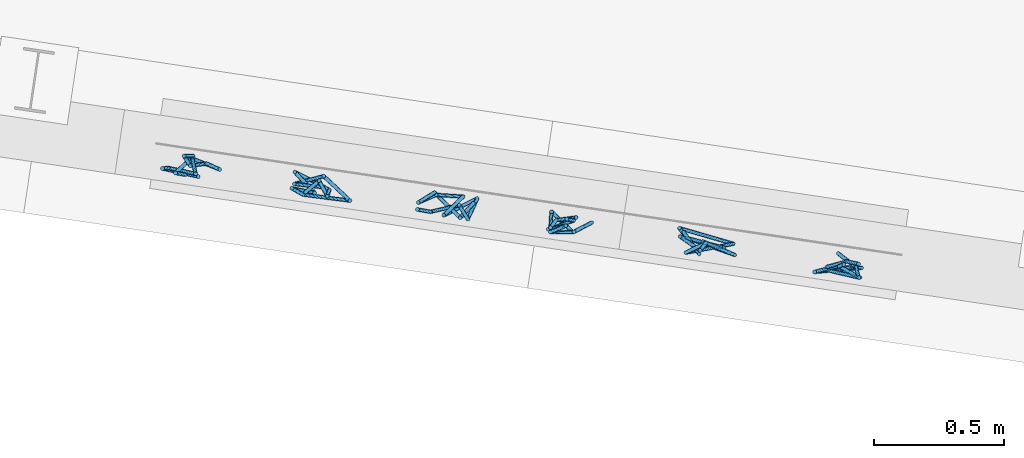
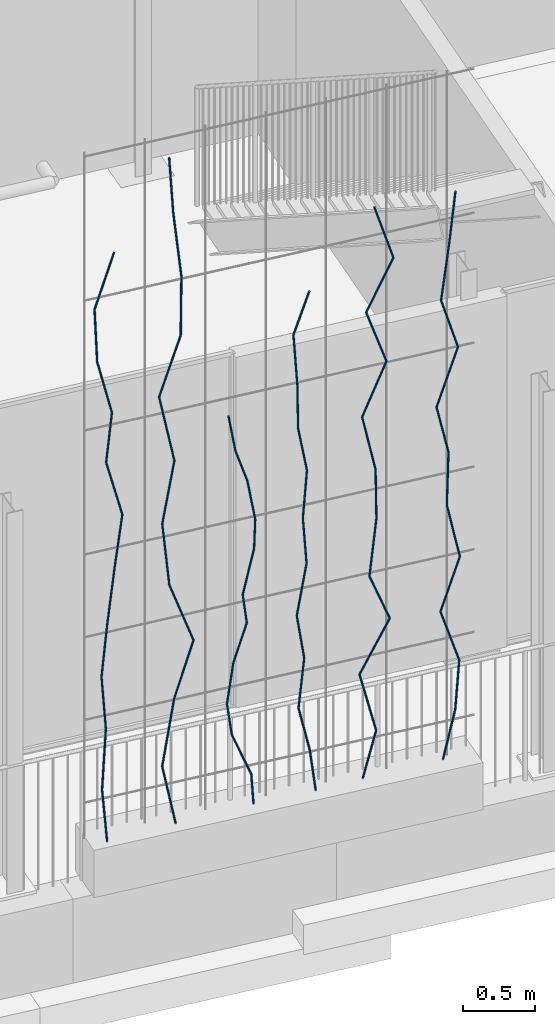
# One storey, part 118 of 142: 66 members, 1 element without a shape of its own.
"""IFC4 building model written with IfcOpenShell, lengths in metres."""

from ifc_helpers import new_model, si_unit, direction, frame, origin_with_axes, place, context, subcontext, project, spatial, circle, extrude, material, material_profile, profile_set, profile_usage, type_object, element, aggregate, save


model = new_model("IFC4")

# Units and contexts
model_context = context("Model", 3, precision=1e-05, world=origin_with_axes(), true_north=direction((0.0, 1.0)))
body_context = subcontext(model_context, "Body", "Model", "MODEL_VIEW")
ifc_project = project(units=[si_unit("VOLUMEUNIT", "CUBIC_METRE"), si_unit("LENGTHUNIT", "METRE"), si_unit("AREAUNIT", "SQUARE_METRE")], contexts=[model_context])

# Site, building, storey
site_placement = place(None, origin_with_axes())
site = spatial("IfcSite", under=ifc_project, at=site_placement, Name="Lares · Rua das Mercês · artigo 4771")
building_placement = place(site_placement, frame((12.0, 10.2, 13.9), z_axis=(0.0, 0.0, 1.0), x_axis=(0.989015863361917, -0.147809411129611, 0.0)))
building = spatial("IfcBuilding", under=site, at=building_placement, Name="Casa Sobreposta")
storey_placement = place(building_placement, origin_with_axes())
storey = spatial("IfcBuildingStorey", under=building, at=storey_placement, Name="00 · Habitação e estacionamento", Elevation=13.9)

# Assembly, members
assembly_placement = place(storey_placement, origin_with_axes())
assembly = element("IfcElementAssembly", 1, at=assembly_placement, inside=storey, Name="Fachada sul e pátio · estrutura e trepadeiras", ObjectType="LIVING_SHADE_TRELLIS", PredefinedType="USERDEFINED")
ifc_material = material(Name="Ramos de trepadeiras", Category="wood")
ifc_material_profile = material_profile(ifc_material, circle(Radius=0.0075))
ifc_profile_set = profile_set([ifc_material_profile], Name="D0.015")
ifc_profile_usage_1 = profile_usage(ifc_profile_set)
member_type = type_object("IfcMemberType", Name="D0.015 / vine_wood", PredefinedType="NOTDEFINED", material=ifc_profile_set)
member_1_placement = place(assembly_placement, frame((20.6273763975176, -1.71270765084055, 0.35), z_axis=(-0.0835871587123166, 0.00224471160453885, 0.996497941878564), x_axis=(0.0268450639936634, 0.999639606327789, 0.0)))
member_1 = element("IfcMember", 2, at=member_1_placement, type_object=member_type, material=ifc_profile_usage_1, Name="Trepadeiras · ramo", context=body_context, shape_type="SweptSolid", body=[
    extrude(circle(Radius=0.0075), origin_with_axes(), (0.0, 0.0, 1.0), 0.454249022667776),
])
ifc_profile_usage_2 = profile_usage(ifc_profile_set)
member_2_placement = place(assembly_placement, frame((20.5894070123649, -1.71168799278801, 0.802658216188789), z_axis=(0.124814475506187, 0.161144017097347, 0.979006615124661), x_axis=(0.790586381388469, -0.61235053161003, 0.0)))
member_2 = element("IfcMember", 3, at=member_2_placement, type_object=member_type, material=ifc_profile_usage_2, Name="Trepadeiras · ramo", context=body_context, shape_type="SweptSolid", body=[
    extrude(circle(Radius=0.0075), origin_with_axes(), (0.0, 0.0, 1.0), 0.462364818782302),
])
ifc_profile_usage_3 = profile_usage(ifc_profile_set)
member_3_placement = place(assembly_placement, frame((20.6471168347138, -1.63718066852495, 1.25531643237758), z_axis=(-0.0761302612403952, -0.0115954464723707, 0.997030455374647), x_axis=(-0.150574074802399, 0.988598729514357, 0.0)))
member_3 = element("IfcMember", 4, at=member_3_placement, type_object=member_type, material=ifc_profile_usage_3, Name="Trepadeiras · ramo", context=body_context, shape_type="SweptSolid", body=[
    extrude(circle(Radius=0.0075), origin_with_axes(), (0.0, 0.0, 1.0), 0.454006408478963),
])
ifc_profile_usage_4 = profile_usage(ifc_profile_set)
member_4_placement = place(assembly_placement, frame((20.6125532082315, -1.64244507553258, 1.70797464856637), z_axis=(0.0638104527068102, -0.07208499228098, 0.995355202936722), x_axis=(-0.748775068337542, -0.662824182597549, 0.0)))
member_4 = element("IfcMember", 5, at=member_4_placement, type_object=member_type, material=ifc_profile_usage_4, Name="Trepadeiras · ramo", context=body_context, shape_type="SweptSolid", body=[
    extrude(circle(Radius=0.0075), origin_with_axes(), (0.0, 0.0, 1.0), 0.454770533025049),
])
ifc_profile_usage_5 = profile_usage(ifc_profile_set)
member_5_placement = place(assembly_placement, frame((20.6415723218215, -1.67522720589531, 2.16063286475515), z_axis=(0.134562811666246, 0.0371278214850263, 0.990209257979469), x_axis=(0.265975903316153, -0.963979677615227, 0.0)))
member_5 = element("IfcMember", 6, at=member_5_placement, type_object=member_type, material=ifc_profile_usage_5, Name="Trepadeiras · ramo", context=body_context, shape_type="SweptSolid", body=[
    extrude(circle(Radius=0.0075), origin_with_axes(), (0.0, 0.0, 1.0), 0.457133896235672),
])
ifc_profile_usage_6 = profile_usage(ifc_profile_set)
member_6_placement = place(assembly_placement, frame((20.7030855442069, -1.65825482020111, 2.61329108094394), z_axis=(0.115686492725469, -0.0326950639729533, 0.99274753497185), x_axis=(-0.271965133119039, -0.962307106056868, -3.58129519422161e-18)))
member_6 = element("IfcMember", 7, at=member_6_placement, type_object=member_type, material=ifc_profile_usage_6, Name="Trepadeiras · ramo", context=body_context, shape_type="SweptSolid", body=[
    extrude(circle(Radius=0.0075), origin_with_axes(), (0.0, 0.0, 1.0), 0.455965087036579),
])
ifc_profile_usage_7 = profile_usage(ifc_profile_set)
member_7_placement = place(assembly_placement, frame((20.7558345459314, -1.67316262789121, 3.06594929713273), z_axis=(-0.237226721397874, 0.0552053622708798, 0.969884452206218), x_axis=(0.226655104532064, 0.973975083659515, 0.0)))
member_7 = element("IfcMember", 8, at=member_7_placement, type_object=member_type, material=ifc_profile_usage_7, Name="Trepadeiras · ramo", context=body_context, shape_type="SweptSolid", body=[
    extrude(circle(Radius=0.0075), origin_with_axes(), (0.0, 0.0, 1.0), 0.466713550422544),
])
ifc_profile_usage_8 = profile_usage(ifc_profile_set)
member_8_placement = place(assembly_placement, frame((20.6451176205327, -1.6473975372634, 3.51860751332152), z_axis=(0.0464804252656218, -0.122384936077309, 0.991393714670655), x_axis=(-0.934849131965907, -0.35504520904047, 0.0)))
member_8 = element("IfcMember", 9, at=member_8_placement, type_object=member_type, material=ifc_profile_usage_8, Name="Trepadeiras · ramo", context=body_context, shape_type="SweptSolid", body=[
    extrude(circle(Radius=0.0075), origin_with_axes(), (0.0, 0.0, 1.0), 0.456587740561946),
])
ifc_profile_usage_9 = profile_usage(ifc_profile_set)
member_9_placement = place(assembly_placement, frame((20.6663400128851, -1.70327699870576, 3.97126572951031), z_axis=(-0.230614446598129, 0.0148450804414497, 0.972931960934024), x_axis=(0.0642389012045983, 0.997934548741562, 0.0)))
member_9 = element("IfcMember", 10, at=member_9_placement, type_object=member_type, material=ifc_profile_usage_9, Name="Trepadeiras · ramo", context=body_context, shape_type="SweptSolid", body=[
    extrude(circle(Radius=0.0075), origin_with_axes(), (0.0, 0.0, 1.0), 0.465251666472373),
])
ifc_profile_usage_10 = profile_usage(ifc_profile_set)
member_10_placement = place(assembly_placement, frame((20.5590462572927, -1.69637030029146, 4.4239239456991), z_axis=(-0.0477503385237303, -0.0120278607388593, 0.998786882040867), x_axis=(-0.244260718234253, 0.969709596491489, 0.0)))
member_10 = element("IfcMember", 11, at=member_10_placement, type_object=member_type, material=ifc_profile_usage_10, Name="Trepadeiras · ramo", context=body_context, shape_type="SweptSolid", body=[
    extrude(circle(Radius=0.0075), origin_with_axes(), (0.0, 0.0, 1.0), 0.453208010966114),
])
ifc_profile_usage_11 = profile_usage(ifc_profile_set)
member_11_placement = place(assembly_placement, frame((20.5374054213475, -1.70182142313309, 4.87658216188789), z_axis=(0.297139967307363, -0.0221915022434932, 0.95457601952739), x_axis=(-0.0744762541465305, -0.997222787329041, 0.0)))
member_11 = element("IfcMember", 12, at=member_11_placement, type_object=member_type, material=ifc_profile_usage_11, Name="Trepadeiras · ramo", context=body_context, shape_type="SweptSolid", body=[
    extrude(circle(Radius=0.0075), origin_with_axes(), (0.0, 0.0, 1.0), 0.474198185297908),
])
ifc_profile_usage_12 = profile_usage(ifc_profile_set)
member_12_placement = place(assembly_placement, frame((21.1508159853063, -1.68230697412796, 0.35), z_axis=(-0.195931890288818, -0.00688597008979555, 0.980593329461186), x_axis=(-0.0351230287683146, 0.99938299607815, 0.0)))
member_12 = element("IfcMember", 13, at=member_12_placement, type_object=member_type, material=ifc_profile_usage_12, Name="Trepadeiras · ramo", context=body_context, shape_type="SweptSolid", body=[
    extrude(circle(Radius=0.0075), origin_with_axes(), (0.0, 0.0, 1.0), 0.526725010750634),
])
ifc_profile_usage_13 = profile_usage(ifc_profile_set)
member_13_placement = place(assembly_placement, frame((21.0476137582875, -1.68593398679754, 0.866503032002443), z_axis=(0.203482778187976, 0.0879343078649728, 0.97512169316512), x_axis=(0.396689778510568, -0.917952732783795, 0.0)))
member_13 = element("IfcMember", 14, at=member_13_placement, type_object=member_type, material=ifc_profile_usage_13, Name="Trepadeiras · ramo", context=body_context, shape_type="SweptSolid", body=[
    extrude(circle(Radius=0.0075), origin_with_axes(), (0.0, 0.0, 1.0), 0.529680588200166),
])
ifc_profile_usage_14 = profile_usage(ifc_profile_set)
member_14_placement = place(assembly_placement, frame((21.1553946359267, -1.63935689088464, 1.38300606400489), z_axis=(0.212115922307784, -0.146392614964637, 0.966217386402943), x_axis=(-0.568011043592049, -0.823020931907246, 0.0)))
member_14 = element("IfcMember", 15, at=member_14_placement, type_object=member_type, material=ifc_profile_usage_14, Name="Trepadeiras · ramo", context=body_context, shape_type="SweptSolid", body=[
    extrude(circle(Radius=0.0075), origin_with_axes(), (0.0, 0.0, 1.0), 0.534561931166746),
])
ifc_profile_usage_15 = profile_usage(ifc_profile_set)
member_15_placement = place(assembly_placement, frame((21.2687837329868, -1.71761280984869, 1.89950909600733), z_axis=(-0.332001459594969, -0.00695787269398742, 0.943253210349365), x_axis=(-0.0209527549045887, 0.999780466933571, -1.23186526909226e-18)))
member_15 = element("IfcMember", 16, at=member_15_placement, type_object=member_type, material=ifc_profile_usage_15, Name="Trepadeiras · ramo", context=body_context, shape_type="SweptSolid", body=[
    extrude(circle(Radius=0.0075), origin_with_axes(), (0.0, 0.0, 1.0), 0.547576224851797),
])
ifc_profile_usage_16 = profile_usage(ifc_profile_set)
member_16_placement = place(assembly_placement, frame((21.0869876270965, -1.72142277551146, 2.41601212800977), z_axis=(-0.0884008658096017, 0.034321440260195, 0.995493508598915), x_axis=(0.361927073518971, 0.932206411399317, 0.0)))
member_16 = element("IfcMember", 17, at=member_16_placement, type_object=member_type, material=ifc_profile_usage_16, Name="Trepadeiras · ramo", context=body_context, shape_type="SweptSolid", body=[
    extrude(circle(Radius=0.0075), origin_with_axes(), (0.0, 0.0, 1.0), 0.518841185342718),
])
ifc_profile_usage_17 = profile_usage(ifc_profile_set)
member_17_placement = place(assembly_placement, frame((21.0411216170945, -1.70361539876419, 2.93251516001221), z_axis=(0.169583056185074, -0.00834312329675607, 0.985480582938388), x_axis=(-0.0491384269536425, -0.998791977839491, 0.0)))
member_17 = element("IfcMember", 18, at=member_17_placement, type_object=member_type, material=ifc_profile_usage_17, Name="Trepadeiras · ramo", context=body_context, shape_type="SweptSolid", body=[
    extrude(circle(Radius=0.0075), origin_with_axes(), (0.0, 0.0, 1.0), 0.524112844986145),
])
ifc_profile_usage_18 = profile_usage(ifc_profile_set)
member_18_placement = place(assembly_placement, frame((21.1300022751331, -1.70798813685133, 3.44901819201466), z_axis=(-0.165196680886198, 0.12887641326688, 0.977804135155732), x_axis=(0.615100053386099, 0.788449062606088, 0.0)))
member_18 = element("IfcMember", 19, at=member_18_placement, type_object=member_type, material=ifc_profile_usage_18, Name="Trepadeiras · ramo", context=body_context, shape_type="SweptSolid", body=[
    extrude(circle(Radius=0.0075), origin_with_axes(), (0.0, 0.0, 1.0), 0.528227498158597),
])
ifc_profile_usage_19 = profile_usage(ifc_profile_set)
member_19_placement = place(assembly_placement, frame((21.0427408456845, -1.63991207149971, 3.9655212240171), z_axis=(0.263772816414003, -0.0896208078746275, 0.960412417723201), x_axis=(-0.321703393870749, -0.946840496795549, 0.0)))
member_19 = element("IfcMember", 20, at=member_19_placement, type_object=member_type, material=ifc_profile_usage_19, Name="Trepadeiras · ramo", context=body_context, shape_type="SweptSolid", body=[
    extrude(circle(Radius=0.0075), origin_with_axes(), (0.0, 0.0, 1.0), 0.537792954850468),
])
ifc_profile_usage_20 = profile_usage(ifc_profile_set)
member_20_placement = place(assembly_placement, frame((21.184596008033, -1.68810951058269, 4.48202425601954), z_axis=(-0.00884303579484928, -0.0496550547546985, 0.998727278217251), x_axis=(-0.984509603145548, 0.175330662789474, 0.0)))
member_20 = element("IfcMember", 21, at=member_20_placement, type_object=member_type, material=ifc_profile_usage_20, Name="Trepadeiras · ramo", context=body_context, shape_type="SweptSolid", body=[
    extrude(circle(Radius=0.0075), origin_with_axes(), (0.0, 0.0, 1.0), 0.517161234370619),
])
ifc_profile_usage_21 = profile_usage(ifc_profile_set)
member_21_placement = place(assembly_placement, frame((21.1800227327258, -1.71378917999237, 4.99852728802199), z_axis=(-0.0758756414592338, 0.105289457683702, 0.991542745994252), x_axis=(0.811288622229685, 0.584645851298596, 0.0)))
member_21 = element("IfcMember", 22, at=member_21_placement, type_object=member_type, material=ifc_profile_usage_21, Name="Trepadeiras · ramo", context=body_context, shape_type="SweptSolid", body=[
    extrude(circle(Radius=0.0075), origin_with_axes(), (0.0, 0.0, 1.0), 0.520908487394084),
])
ifc_profile_usage_22 = profile_usage(ifc_profile_set)
member_22_placement = place(assembly_placement, frame((21.1404984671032, -1.65894300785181, 5.51503032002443), z_axis=(-0.104207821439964, -0.117962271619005, 0.987535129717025), x_axis=(-0.749448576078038, 0.662062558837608, -1.08838242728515e-17)))
member_22 = element("IfcMember", 23, at=member_22_placement, type_object=member_type, material=ifc_profile_usage_22, Name="Trepadeiras · ramo", context=body_context, shape_type="SweptSolid", body=[
    extrude(circle(Radius=0.0075), origin_with_axes(), (0.0, 0.0, 1.0), 0.523022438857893),
])
ifc_profile_usage_23 = profile_usage(ifc_profile_set)
member_23_placement = place(assembly_placement, frame((21.7400761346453, -1.65737869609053, 0.35), z_axis=(-0.132655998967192, -0.198443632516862, 0.971093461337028), x_axis=(-0.831353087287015, 0.555744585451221, 0.0)))
member_23 = element("IfcMember", 24, at=member_23_placement, type_object=member_type, material=ifc_profile_usage_23, Name="Trepadeiras · ramo", context=body_context, shape_type="SweptSolid", body=[
    extrude(circle(Radius=0.0075), origin_with_axes(), (0.0, 0.0, 1.0), 0.316169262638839),
])
ifc_profile_usage_24 = profile_usage(ifc_profile_set)
member_24_placement = place(assembly_placement, frame((21.6981343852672, -1.72012047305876, 0.657029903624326), z_axis=(-0.333334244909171, 0.241004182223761, 0.911485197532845), x_axis=(0.585910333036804, 0.810375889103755, 0.0)))
member_24 = element("IfcMember", 25, at=member_24_placement, type_object=member_type, material=ifc_profile_usage_24, Name="Trepadeiras · ramo", context=body_context, shape_type="SweptSolid", body=[
    extrude(circle(Radius=0.0075), origin_with_axes(), (0.0, 0.0, 1.0), 0.336845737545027),
])
ifc_profile_usage_25 = profile_usage(ifc_profile_set)
member_25_placement = place(assembly_placement, frame((21.5858521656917, -1.63893924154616, 0.964059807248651), z_axis=(-0.176045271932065, -0.148963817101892, 0.973045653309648), x_axis=(-0.645948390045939, 0.763381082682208, 0.0)))
member_25 = element("IfcMember", 26, at=member_25_placement, type_object=member_type, material=ifc_profile_usage_25, Name="Trepadeiras · ramo", context=body_context, shape_type="SweptSolid", body=[
    extrude(circle(Radius=0.0075), origin_with_axes(), (0.0, 0.0, 1.0), 0.31553494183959),
])
ifc_profile_usage_26 = profile_usage(ifc_profile_set)
member_26_placement = place(assembly_placement, frame((21.5303037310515, -1.68594253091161, 1.27108971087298), z_axis=(0.200304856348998, 0.124144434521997, 0.971836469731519), x_axis=(0.526803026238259, -0.84998739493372, 0.0)))
member_26 = element("IfcMember", 27, at=member_26_placement, type_object=member_type, material=ifc_profile_usage_26, Name="Trepadeiras · ramo", context=body_context, shape_type="SweptSolid", body=[
    extrude(circle(Radius=0.0075), origin_with_axes(), (0.0, 0.0, 1.0), 0.315927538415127),
])
ifc_profile_usage_27 = profile_usage(ifc_profile_set)
member_27_placement = place(assembly_placement, frame((21.5935855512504, -1.64672188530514, 1.5781196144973), z_axis=(0.32025230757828, 0.0266897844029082, 0.946956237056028), x_axis=(0.083051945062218, -0.996545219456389, 0.0)))
member_27 = element("IfcMember", 28, at=member_27_placement, type_object=member_type, material=ifc_profile_usage_27, Name="Trepadeiras · ramo", context=body_context, shape_type="SweptSolid", body=[
    extrude(circle(Radius=0.0075), origin_with_axes(), (0.0, 0.0, 1.0), 0.324228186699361),
])
ifc_profile_usage_28 = profile_usage(ifc_profile_set)
member_28_placement = place(assembly_placement, frame((21.6974203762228, -1.63806830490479, 1.88514951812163), z_axis=(-0.194227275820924, -0.253704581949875, 0.947580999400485), x_axis=(-0.794028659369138, 0.607880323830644, 0.0)))
member_28 = element("IfcMember", 29, at=member_28_placement, type_object=member_type, material=ifc_profile_usage_28, Name="Trepadeiras · ramo", context=body_context, shape_type="SweptSolid", body=[
    extrude(circle(Radius=0.0075), origin_with_axes(), (0.0, 0.0, 1.0), 0.324014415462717),
])
ifc_profile_usage_29 = profile_usage(ifc_profile_set)
member_29_placement = place(assembly_placement, frame((21.6344879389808, -1.72027224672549, 2.19217942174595), z_axis=(0.346862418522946, 0.245001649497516, 0.905351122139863), x_axis=(0.576930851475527, -0.816792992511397, 0.0)))
member_29 = element("IfcMember", 30, at=member_29_placement, type_object=member_type, material=ifc_profile_usage_29, Name="Trepadeiras · ramo", context=body_context, shape_type="SweptSolid", body=[
    extrude(circle(Radius=0.0075), origin_with_axes(), (0.0, 0.0, 1.0), 0.339127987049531),
])
ifc_profile_usage_30 = profile_usage(ifc_profile_set)
member_30_placement = place(assembly_placement, frame((21.7521186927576, -1.63718533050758, 2.49920932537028), z_axis=(-0.0767531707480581, -0.261711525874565, 0.962089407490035), x_axis=(-0.959584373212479, 0.281421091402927, 0.0)))
member_30 = element("IfcMember", 31, at=member_30_placement, type_object=member_type, material=ifc_profile_usage_30, Name="Trepadeiras · ramo", context=body_context, shape_type="SweptSolid", body=[
    extrude(circle(Radius=0.0075), origin_with_axes(), (0.0, 0.0, 1.0), 0.319128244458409),
])
ifc_profile_usage_31 = profile_usage(ifc_profile_set)
member_31_placement = place(assembly_placement, frame((21.7276245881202, -1.72070487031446, 2.80623922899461), z_axis=(-0.128062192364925, 0.15347184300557, 0.979819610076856), x_axis=(0.767805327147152, 0.640683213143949, 1.70070422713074e-17)))
member_31 = element("IfcMember", 32, at=member_31_placement, type_object=member_type, material=ifc_profile_usage_31, Name="Trepadeiras · ramo", context=body_context, shape_type="SweptSolid", body=[
    extrude(circle(Radius=0.0075), origin_with_axes(), (0.0, 0.0, 1.0), 0.313353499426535),
])
ifc_profile_usage_32 = profile_usage(ifc_profile_set)
member_32_placement = place(assembly_placement, frame((21.6874958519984, -1.67261393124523, 3.11326913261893), z_axis=(-0.321953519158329, -0.127479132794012, 0.938133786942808), x_axis=(-0.368146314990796, 0.929767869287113, 0.0)))
member_32 = element("IfcMember", 33, at=member_32_placement, type_object=member_type, material=ifc_profile_usage_32, Name="Trepadeiras · ramo", context=body_context, shape_type="SweptSolid", body=[
    extrude(circle(Radius=0.0075), origin_with_axes(), (0.0, 0.0, 1.0), 0.32727731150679),
])
ifc_profile_usage_33 = profile_usage(ifc_profile_set)
member_33_placement = place(assembly_placement, frame((21.5821277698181, -1.71433495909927, 3.42029903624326), z_axis=(-0.1646374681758, 0.00473812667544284, 0.986342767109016), x_axis=(0.028767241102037, 0.999586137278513, 0.0)))
member_33 = element("IfcMember", 34, at=member_33_placement, type_object=member_type, material=ifc_profile_usage_33, Name="Trepadeiras · ramo", context=body_context, shape_type="SweptSolid", body=[
    extrude(circle(Radius=0.0075), origin_with_axes(), (0.0, 0.0, 1.0), 0.31128114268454),
])
ifc_profile_usage_34 = profile_usage(ifc_profile_set)
member_34_placement = place(assembly_placement, frame((22.2010948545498, -1.66404666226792, 0.35), z_axis=(-0.156267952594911, -0.113426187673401, 0.981180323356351), x_axis=(-0.587415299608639, 0.809285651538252, 0.0)))
member_34 = element("IfcMember", 35, at=member_34_placement, type_object=member_type, material=ifc_profile_usage_34, Name="Trepadeiras · ramo", context=body_context, shape_type="SweptSolid", body=[
    extrude(circle(Radius=0.0075), origin_with_axes(), (0.0, 0.0, 1.0), 0.39630472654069),
])
ifc_profile_usage_35 = profile_usage(ifc_profile_set)
member_35_placement = place(assembly_placement, frame((22.1391651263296, -1.70899799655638, 0.738846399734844), z_axis=(-0.22503098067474, -0.0357928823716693, 0.973693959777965), x_axis=(-0.157082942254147, 0.98758541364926, 0.0)))
member_35 = element("IfcMember", 36, at=member_35_placement, type_object=member_type, material=ifc_profile_usage_35, Name="Trepadeiras · ramo", context=body_context, shape_type="SweptSolid", body=[
    extrude(circle(Radius=0.0075), origin_with_axes(), (0.0, 0.0, 1.0), 0.399351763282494),
])
ifc_profile_usage_36 = profile_usage(ifc_profile_set)
member_36_placement = place(assembly_placement, frame((22.0492986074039, -1.72329194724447, 1.12769279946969), z_axis=(0.140633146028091, 0.0834297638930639, 0.986540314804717), x_axis=(0.510216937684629, -0.860045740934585, 0.0)))
member_36 = element("IfcMember", 37, at=member_36_placement, type_object=member_type, material=ifc_profile_usage_36, Name="Trepadeiras · ramo", context=body_context, shape_type="SweptSolid", body=[
    extrude(circle(Radius=0.0075), origin_with_axes(), (0.0, 0.0, 1.0), 0.394151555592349),
])
ifc_profile_usage_37 = profile_usage(ifc_profile_set)
member_37_placement = place(assembly_placement, frame((22.1047293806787, -1.69040797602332, 1.51653919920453), z_axis=(-0.163460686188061, -0.0585675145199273, 0.984809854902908), x_axis=(-0.337300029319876, 0.941397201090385, 0.0)))
member_37 = element("IfcMember", 38, at=member_37_placement, type_object=member_type, material=ifc_profile_usage_37, Name="Trepadeiras · ramo", context=body_context, shape_type="SweptSolid", body=[
    extrude(circle(Radius=0.0075), origin_with_axes(), (0.0, 0.0, 1.0), 0.394844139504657),
])
ifc_profile_usage_38 = profile_usage(ifc_profile_set)
member_38_placement = place(assembly_placement, frame((22.040187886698, -1.71353301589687, 1.90538559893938), z_axis=(0.227101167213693, 0.117683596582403, 0.966734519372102), x_axis=(0.460093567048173, -0.8878704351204, 0.0)))
member_38 = element("IfcMember", 39, at=member_38_placement, type_object=member_type, material=ifc_profile_usage_38, Name="Trepadeiras · ramo", context=body_context, shape_type="SweptSolid", body=[
    extrude(circle(Radius=0.0075), origin_with_axes(), (0.0, 0.0, 1.0), 0.402226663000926),
])
ifc_profile_usage_39 = profile_usage(ifc_profile_set)
member_39_placement = place(assembly_placement, frame((22.1315340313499, -1.66619753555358, 2.29423199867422), z_axis=(-0.0684616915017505, 0.00441438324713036, 0.997643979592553), x_axis=(0.0643459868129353, 0.997927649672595, 0.0)))
member_39 = element("IfcMember", 40, at=member_39_placement, type_object=member_type, material=ifc_profile_usage_39, Name="Trepadeiras · ramo", context=body_context, shape_type="SweptSolid", body=[
    extrude(circle(Radius=0.0075), origin_with_axes(), (0.0, 0.0, 1.0), 0.389764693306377),
])
ifc_profile_usage_40 = profile_usage(ifc_profile_set)
member_40_placement = place(assembly_placement, frame((22.1048500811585, -1.66447696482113, 2.68307839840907), z_axis=(0.0895386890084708, 0.0295004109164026, 0.995546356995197), x_axis=(0.312924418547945, -0.949778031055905, 0.0)))
member_40 = element("IfcMember", 41, at=member_40_placement, type_object=member_type, material=ifc_profile_usage_40, Name="Trepadeiras · ramo", context=body_context, shape_type="SweptSolid", body=[
    extrude(circle(Radius=0.0075), origin_with_axes(), (0.0, 0.0, 1.0), 0.390585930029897),
])
ifc_profile_usage_41 = profile_usage(ifc_profile_set)
member_41_placement = place(assembly_placement, frame((22.1398226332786, -1.65295451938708, 3.07192479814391), z_axis=(-0.188230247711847, -0.0543596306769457, 0.980619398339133), x_axis=(-0.277454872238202, 0.960738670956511, 0.0)))
member_41 = element("IfcMember", 42, at=member_41_placement, type_object=member_type, material=ifc_profile_usage_41, Name="Trepadeiras · ramo", context=body_context, shape_type="SweptSolid", body=[
    extrude(circle(Radius=0.0075), origin_with_axes(), (0.0, 0.0, 1.0), 0.396531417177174),
])
ifc_profile_usage_42 = profile_usage(ifc_profile_set)
member_42_placement = place(assembly_placement, frame((22.0651834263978, -1.67450982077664, 3.46077119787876), z_axis=(-0.0452248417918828, -0.080516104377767, 0.995726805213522), x_axis=(-0.871878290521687, 0.489722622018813, 0.0)))
member_42 = element("IfcMember", 43, at=member_42_placement, type_object=member_type, material=ifc_profile_usage_42, Name="Trepadeiras · ramo", context=body_context, shape_type="SweptSolid", body=[
    extrude(circle(Radius=0.0075), origin_with_axes(), (0.0, 0.0, 1.0), 0.390515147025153),
])
ifc_profile_usage_43 = profile_usage(ifc_profile_set)
member_43_placement = place(assembly_placement, frame((22.0475224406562, -1.70595257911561, 3.8496175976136), z_axis=(-0.0136161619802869, 0.154508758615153, 0.987897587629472), x_axis=(0.996139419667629, 0.0877852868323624, 0.0)))
member_43 = element("IfcMember", 44, at=member_43_placement, type_object=member_type, material=ifc_profile_usage_43, Name="Trepadeiras · ramo", context=body_context, shape_type="SweptSolid", body=[
    extrude(circle(Radius=0.0075), origin_with_axes(), (0.0, 0.0, 1.0), 0.393610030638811),
])
ifc_profile_usage_44 = profile_usage(ifc_profile_set)
member_44_placement = place(assembly_placement, frame((22.042162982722, -1.64513638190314, 4.23846399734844), z_axis=(0.229076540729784, -0.161181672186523, 0.959971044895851), x_axis=(-0.575444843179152, -0.817840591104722, 0.0)))
member_44 = element("IfcMember", 45, at=member_44_placement, type_object=member_type, material=ifc_profile_usage_44, Name="Trepadeiras · ramo", context=body_context, shape_type="SweptSolid", body=[
    extrude(circle(Radius=0.0075), origin_with_axes(), (0.0, 0.0, 1.0), 0.405060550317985),
])
ifc_profile_usage_45 = profile_usage(ifc_profile_set)
member_45_placement = place(assembly_placement, frame((22.5568028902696, -1.64792253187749, 0.35), z_axis=(0.159137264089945, -0.163908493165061, 0.973554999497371), x_axis=(-0.71747215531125, -0.696587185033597, 0.0)))
member_45 = element("IfcMember", 46, at=member_45_placement, type_object=member_type, material=ifc_profile_usage_45, Name="Trepadeiras · ramo", context=body_context, shape_type="SweptSolid", body=[
    extrude(circle(Radius=0.0075), origin_with_axes(), (0.0, 0.0, 1.0), 0.451603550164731),
])
ifc_profile_usage_46 = profile_usage(ifc_profile_set)
member_46_placement = place(assembly_placement, frame((22.6286698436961, -1.72194418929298, 0.789660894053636), z_axis=(-0.19739697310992, 0.189913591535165, 0.96175218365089), x_axis=(0.693315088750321, 0.720634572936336, -2.43628467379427e-17)))
member_46 = element("IfcMember", 47, at=member_46_placement, type_object=member_type, material=ifc_profile_usage_46, Name="Trepadeiras · ramo", context=body_context, shape_type="SweptSolid", body=[
    extrude(circle(Radius=0.0075), origin_with_axes(), (0.0, 0.0, 1.0), 0.45714571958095),
])
ifc_profile_usage_47 = profile_usage(ifc_profile_set)
member_47_placement = place(assembly_placement, frame((22.5384306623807, -1.63512600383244, 1.22932178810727), z_axis=(0.437876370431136, -0.0583722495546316, 0.897138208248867), x_axis=(-0.132138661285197, -0.991231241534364, 0.0)))
member_47 = element("IfcMember", 48, at=member_47_placement, type_object=member_type, material=ifc_profile_usage_47, Name="Trepadeiras · ramo", context=body_context, shape_type="SweptSolid", body=[
    extrude(circle(Radius=0.0075), origin_with_axes(), (0.0, 0.0, 1.0), 0.490070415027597),
])
ifc_profile_usage_48 = profile_usage(ifc_profile_set)
member_48_placement = place(assembly_placement, frame((22.7530209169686, -1.66373251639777, 1.66898268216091), z_axis=(-0.367638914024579, -0.127090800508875, 0.921243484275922), x_axis=(-0.326722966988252, 0.945120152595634, 1.64335059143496e-17)))
member_48 = element("IfcMember", 49, at=member_48_placement, type_object=member_type, material=ifc_profile_usage_48, Name="Trepadeiras · ramo", context=body_context, shape_type="SweptSolid", body=[
    extrude(circle(Radius=0.0075), origin_with_axes(), (0.0, 0.0, 1.0), 0.477247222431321),
])
ifc_profile_usage_49 = profile_usage(ifc_profile_set)
member_49_placement = place(assembly_placement, frame((22.5775662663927, -1.7243862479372, 2.10864357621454), z_axis=(0.159100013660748, 0.110484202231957, 0.9810608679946), x_axis=(0.57038912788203, -0.82137460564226, 0.0)))
member_49 = element("IfcMember", 50, at=member_49_placement, type_object=member_type, material=ifc_profile_usage_49, Name="Trepadeiras · ramo", context=body_context, shape_type="SweptSolid", body=[
    extrude(circle(Radius=0.0075), origin_with_axes(), (0.0, 0.0, 1.0), 0.448148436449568),
])
ifc_profile_usage_50 = profile_usage(ifc_profile_set)
member_50_placement = place(assembly_placement, frame((22.6488666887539, -1.67487292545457, 2.54830447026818), z_axis=(-0.0433477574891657, -0.0749045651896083, 0.996248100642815), x_axis=(-0.865516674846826, 0.500880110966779, 0.0)))
member_50 = element("IfcMember", 51, at=member_50_placement, type_object=member_type, material=ifc_profile_usage_50, Name="Trepadeiras · ramo", context=body_context, shape_type="SweptSolid", body=[
    extrude(circle(Radius=0.0075), origin_with_axes(), (0.0, 0.0, 1.0), 0.441316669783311),
])
ifc_profile_usage_51 = profile_usage(ifc_profile_set)
member_51_placement = place(assembly_placement, frame((22.6297366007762, -1.70792955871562, 2.98796536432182), z_axis=(-0.186207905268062, 0.0927095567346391, 0.978126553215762), x_axis=(0.445696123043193, 0.895184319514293, 0.0)))
member_51 = element("IfcMember", 52, at=member_51_placement, type_object=member_type, material=ifc_profile_usage_51, Name="Trepadeiras · ramo", context=body_context, shape_type="SweptSolid", body=[
    extrude(circle(Radius=0.0075), origin_with_axes(), (0.0, 0.0, 1.0), 0.449492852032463),
])
ifc_profile_usage_52 = profile_usage(ifc_profile_set)
member_52_placement = place(assembly_placement, frame((22.5460374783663, -1.6662572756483, 3.42762625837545), z_axis=(0.367929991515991, -0.0378235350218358, 0.929083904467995), x_axis=(-0.102261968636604, -0.994757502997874, 0.0)))
member_52 = element("IfcMember", 53, at=member_52_placement, type_object=member_type, material=ifc_profile_usage_52, Name="Trepadeiras · ramo", context=body_context, shape_type="SweptSolid", body=[
    extrude(circle(Radius=0.0075), origin_with_axes(), (0.0, 0.0, 1.0), 0.473219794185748),
])
ifc_profile_usage_53 = profile_usage(ifc_profile_set)
member_53_placement = place(assembly_placement, frame((22.7201492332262, -1.68415612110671, 3.86728715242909), z_axis=(-0.313257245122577, 0.0332791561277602, 0.949085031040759), x_axis=(0.105641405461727, 0.994404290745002, 0.0)))
member_53 = element("IfcMember", 54, at=member_53_placement, type_object=member_type, material=ifc_profile_usage_53, Name="Trepadeiras · ramo", context=body_context, shape_type="SweptSolid", body=[
    extrude(circle(Radius=0.0075), origin_with_axes(), (0.0, 0.0, 1.0), 0.463247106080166),
])
ifc_profile_usage_54 = profile_usage(ifc_profile_set)
member_54_placement = place(assembly_placement, frame((22.5750337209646, -1.66873964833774, 4.30694804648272), z_axis=(0.393220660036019, -0.076026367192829, 0.916295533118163), x_axis=(-0.189827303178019, -0.981817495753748, 0.0)))
member_54 = element("IfcMember", 55, at=member_54_placement, type_object=member_type, material=ifc_profile_usage_54, Name="Trepadeiras · ramo", context=body_context, shape_type="SweptSolid", body=[
    extrude(circle(Radius=0.0075), origin_with_axes(), (0.0, 0.0, 1.0), 0.479824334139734),
])
ifc_profile_usage_55 = profile_usage(ifc_profile_set)
member_55_placement = place(assembly_placement, frame((22.7637105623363, -1.7052189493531, 4.74660894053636), z_axis=(-0.281828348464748, 0.0716682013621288, 0.956784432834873), x_axis=(0.246453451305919, 0.96915462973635, 0.0)))
member_55 = element("IfcMember", 56, at=member_55_placement, type_object=member_type, material=ifc_profile_usage_55, Name="Trepadeiras · ramo", context=body_context, shape_type="SweptSolid", body=[
    extrude(circle(Radius=0.0075), origin_with_axes(), (0.0, 0.0, 1.0), 0.459519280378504),
])
ifc_profile_usage_56 = profile_usage(ifc_profile_set)
member_56_placement = place(assembly_placement, frame((23.1572684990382, -1.64112605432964, 0.35), z_axis=(0.170564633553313, -0.0943483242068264, 0.980819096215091), x_axis=(-0.484035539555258, -0.875048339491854, 0.0)))
member_56 = element("IfcMember", 57, at=member_56_placement, type_object=member_type, material=ifc_profile_usage_56, Name="Trepadeiras · ramo", context=body_context, shape_type="SweptSolid", body=[
    extrude(circle(Radius=0.0075), origin_with_axes(), (0.0, 0.0, 1.0), 0.446052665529),
])
ifc_profile_usage_57 = profile_usage(ifc_profile_set)
member_57_placement = place(assembly_placement, frame((23.2333493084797, -1.68321037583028, 0.787496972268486), z_axis=(0.0340344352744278, -0.0856832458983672, 0.995740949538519), x_axis=(-0.929367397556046, -0.369156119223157, 0.0)))
member_57 = element("IfcMember", 58, at=member_57_placement, type_object=member_type, material=ifc_profile_usage_57, Name="Trepadeiras · ramo", context=body_context, shape_type="SweptSolid", body=[
    extrude(circle(Radius=0.0075), origin_with_axes(), (0.0, 0.0, 1.0), 0.439368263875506),
])
ifc_profile_usage_58 = profile_usage(ifc_profile_set)
member_58_placement = place(assembly_placement, frame((23.2483029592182, -1.72085687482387, 1.22499394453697), z_axis=(-0.295906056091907, 0.0242868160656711, 0.954908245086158), x_axis=(0.0818010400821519, 0.996648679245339, 0.0)))
member_58 = element("IfcMember", 59, at=member_58_placement, type_object=member_type, material=ifc_profile_usage_58, Name="Trepadeiras · ramo", context=body_context, shape_type="SweptSolid", body=[
    extrude(circle(Radius=0.0075), origin_with_axes(), (0.0, 0.0, 1.0), 0.458156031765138),
])
ifc_profile_usage_59 = profile_usage(ifc_profile_set)
member_59_placement = place(assembly_placement, frame((23.1127318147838, -1.70972972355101, 1.66249091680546), z_axis=(0.305577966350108, -0.0228254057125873, 0.951893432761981), x_axis=(-0.0744883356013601, -0.997221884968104, 0.0)))
member_59 = element("IfcMember", 60, at=member_59_placement, type_object=member_type, material=ifc_profile_usage_59, Name="Trepadeiras · ramo", context=body_context, shape_type="SweptSolid", body=[
    extrude(circle(Radius=0.0075), origin_with_axes(), (0.0, 0.0, 1.0), 0.459607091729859),
])
ifc_profile_usage_60 = profile_usage(ifc_profile_set)
member_60_placement = place(assembly_placement, frame((23.2531776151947, -1.72022044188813, 2.09998788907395), z_axis=(-0.1902599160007, 0.0693399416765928, 0.979281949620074), x_axis=(0.34241690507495, 0.939548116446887, 0.0)))
member_60 = element("IfcMember", 61, at=member_60_placement, type_object=member_type, material=ifc_profile_usage_60, Name="Trepadeiras · ramo", context=body_context, shape_type="SweptSolid", body=[
    extrude(circle(Radius=0.0075), origin_with_axes(), (0.0, 0.0, 1.0), 0.446752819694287),
])
ifc_profile_usage_61 = profile_usage(ifc_profile_set)
member_61_placement = place(assembly_placement, frame((23.1681784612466, -1.68924262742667, 2.53748486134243), z_axis=(0.0371367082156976, 0.0220993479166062, 0.999065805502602), x_axis=(0.999310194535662, -0.000821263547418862, -0.0371276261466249)))
member_61 = element("IfcMember", 62, at=member_61_placement, type_object=member_type, material=ifc_profile_usage_61, Name="Trepadeiras · ramo", context=body_context, shape_type="SweptSolid", body=[
    extrude(circle(Radius=0.0075), origin_with_axes(), (0.0, 0.0, 1.0), 0.437906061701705),
])
ifc_profile_usage_62 = profile_usage(ifc_profile_set)
member_62_placement = place(assembly_placement, frame((23.1844408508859, -1.67956518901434, 2.97498183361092), z_axis=(-0.235996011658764, -0.0998857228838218, 0.966606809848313), x_axis=(-0.389776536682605, 0.920909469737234, 0.0)))
member_62 = element("IfcMember", 63, at=member_62_placement, type_object=member_type, material=ifc_profile_usage_62, Name="Trepadeiras · ramo", context=body_context, shape_type="SweptSolid", body=[
    extrude(circle(Radius=0.0075), origin_with_axes(), (0.0, 0.0, 1.0), 0.452611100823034),
])
ifc_profile_usage_63 = profile_usage(ifc_profile_set)
member_63_placement = place(assembly_placement, frame((23.0776264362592, -1.72477457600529, 3.4124788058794), z_axis=(0.372604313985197, 0.0898929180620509, 0.923626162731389), x_axis=(0.234526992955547, -0.972109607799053, 0.0)))
member_63 = element("IfcMember", 64, at=member_63_placement, type_object=member_type, material=ifc_profile_usage_63, Name="Trepadeiras · ramo", context=body_context, shape_type="SweptSolid", body=[
    extrude(circle(Radius=0.0075), origin_with_axes(), (0.0, 0.0, 1.0), 0.473673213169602),
])
ifc_profile_usage_64 = profile_usage(ifc_profile_set)
member_64_placement = place(assembly_placement, frame((23.2541191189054, -1.68219470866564, 3.84997577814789), z_axis=(-0.289085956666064, -0.0350734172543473, 0.95666042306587), x_axis=(-0.120442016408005, 0.992720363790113, 0.0)))
member_64 = element("IfcMember", 65, at=member_64_placement, type_object=member_type, material=ifc_profile_usage_64, Name="Trepadeiras · ramo", context=body_context, shape_type="SweptSolid", body=[
    extrude(circle(Radius=0.0075), origin_with_axes(), (0.0, 0.0, 1.0), 0.457316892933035),
])
ifc_profile_usage_65 = profile_usage(ifc_profile_set)
member_65_placement = place(assembly_placement, frame((23.1219152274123, -1.69823437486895, 4.28747275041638), z_axis=(0.162216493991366, 0.0710607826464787, 0.984193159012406), x_axis=(0.401250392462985, -0.915968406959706, 0.0)))
member_65 = element("IfcMember", 66, at=member_65_placement, type_object=member_type, material=ifc_profile_usage_65, Name="Trepadeiras · ramo", context=body_context, shape_type="SweptSolid", body=[
    extrude(circle(Radius=0.0075), origin_with_axes(), (0.0, 0.0, 1.0), 0.444523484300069),
])
ifc_profile_usage_66 = profile_usage(ifc_profile_set)
member_66_placement = place(assembly_placement, frame((23.1940242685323, -1.66664618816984, 4.72496972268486), z_axis=(0.106000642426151, -0.00536431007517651, 0.994351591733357), x_axis=(-0.050541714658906, -0.998721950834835, 0.0)))
member_66 = element("IfcMember", 67, at=member_66_placement, type_object=member_type, material=ifc_profile_usage_66, Name="Trepadeiras · ramo", context=body_context, shape_type="SweptSolid", body=[
    extrude(circle(Radius=0.0075), origin_with_axes(), (0.0, 0.0, 1.0), 0.439982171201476),
])
aggregate(assembly, [member_1, member_2, member_3, member_4, member_5, member_6, member_7, member_8, member_9, member_10, member_11, member_12, member_13, member_14, member_15, member_16, member_17, member_18, member_19, member_20, member_21, member_22, member_23, member_24, member_25, member_26, member_27, member_28, member_29, member_30, member_31, member_32, member_33, member_34, member_35, member_36, member_37, member_38, member_39, member_40, member_41, member_42, member_43, member_44, member_45, member_46, member_47, member_48, member_49, member_50, member_51, member_52, member_53, member_54, member_55, member_56, member_57, member_58, member_59, member_60, member_61, member_62, member_63, member_64, member_65, member_66])

save(model, "model.ifc")
